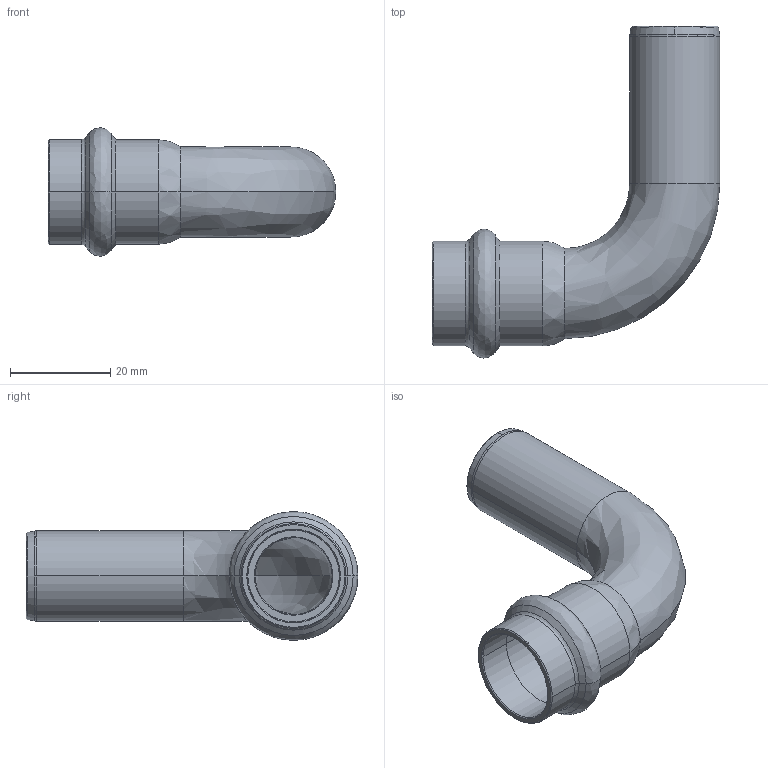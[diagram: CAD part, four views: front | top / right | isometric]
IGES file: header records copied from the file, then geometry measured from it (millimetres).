
Start section: Elysium IGES Interface
Global section: file name: C:\Users\Wallenburg\Desktop\3d modellen sudo\S-Pr VP\SP6001V\6001VW18.igs; native system: CoCreate Modeling 17.00A  17-Jun-2010; preprocessor: CoCreate IGES_3D V2.2; author: Unknown; organization: Unknown; date: 20130114.115255; units: millimetre
Bounding box: 57.43 x 66.25 x 25.68 mm (x, y, z)
Volume: 7416.8 mm3; surface area: 10632.7 mm2
Topology: 1 solids, 1 shells, 52 faces, 114 edges, 66 vertices
Faces by surface type: bspline 52
